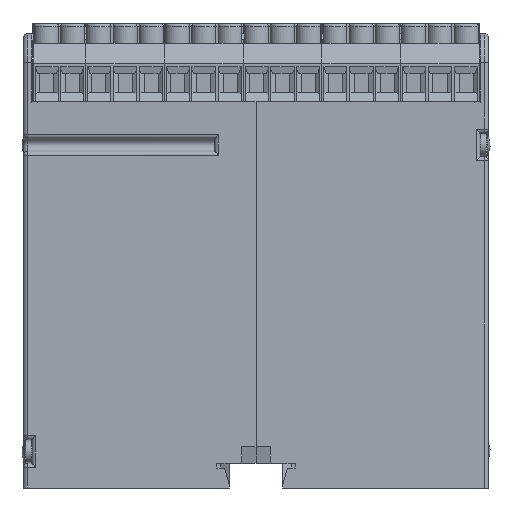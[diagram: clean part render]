
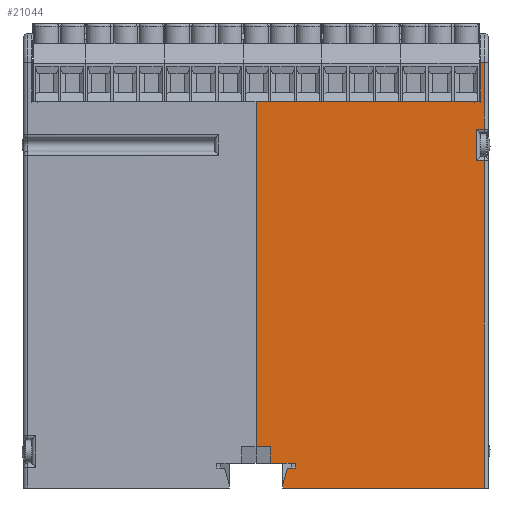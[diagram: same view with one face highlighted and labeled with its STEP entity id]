
A CAD part, front view. The second image highlights one B-rep face of the part: STEP entity #21044.
In plain terms, the highlighted planar face has unit normal (0, -1, 0).
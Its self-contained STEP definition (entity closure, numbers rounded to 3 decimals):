
#2092=FACE_OUTER_BOUND($,#3209,.T.);
#3209=EDGE_LOOP($,(#18521,#18522,#18523,#18524,#18525,#18526,#18527,#18528,
#18529,#18530,#18531,#18532,#18533,#18534,#18535,#18536,#18537,#18538));
#5376=LINE($,#36339,#7913);
#5430=LINE($,#36468,#7967);
#5512=LINE($,#36674,#8049);
#5527=LINE($,#36736,#8064);
#5530=LINE($,#36742,#8067);
#5533=LINE($,#36748,#8070);
#5535=LINE($,#36752,#8072);
#5536=LINE($,#36754,#8073);
#5537=LINE($,#36755,#8074);
#5538=LINE($,#36757,#8075);
#5539=LINE($,#36759,#8076);
#5540=LINE($,#36761,#8077);
#5541=LINE($,#36763,#8078);
#5542=LINE($,#36765,#8079);
#5543=LINE($,#36767,#8080);
#5544=LINE($,#36769,#8081);
#5545=LINE($,#36771,#8082);
#5546=LINE($,#36772,#8083);
#7913=VECTOR($,#26968,6.);
#7967=VECTOR($,#27064,1.2);
#8049=VECTOR($,#27198,52.75);
#8064=VECTOR($,#27261,4.167);
#8067=VECTOR($,#27266,0.775);
#8070=VECTOR($,#27271,1.922);
#8072=VECTOR($,#27275,83.6);
#8073=VECTOR($,#27276,3.5);
#8074=VECTOR($,#27277,4.);
#8075=VECTOR($,#27278,48.75);
#8076=VECTOR($,#27279,79.15);
#8077=VECTOR($,#27280,2.);
#8078=VECTOR($,#27281,7.7);
#8079=VECTOR($,#27282,2.);
#8080=VECTOR($,#27283,16.15);
#8081=VECTOR($,#27284,1.);
#8082=VECTOR($,#27285,9.4);
#8083=VECTOR($,#27286,1.5);
#10337=VERTEX_POINT($,#36336);
#10338=VERTEX_POINT($,#36338);
#10392=VERTEX_POINT($,#36466);
#10427=VERTEX_POINT($,#36537);
#10490=VERTEX_POINT($,#36672);
#10512=VERTEX_POINT($,#36732);
#10513=VERTEX_POINT($,#36734);
#10515=VERTEX_POINT($,#36740);
#10518=VERTEX_POINT($,#36751);
#10519=VERTEX_POINT($,#36753);
#10520=VERTEX_POINT($,#36756);
#10521=VERTEX_POINT($,#36758);
#10522=VERTEX_POINT($,#36760);
#10523=VERTEX_POINT($,#36762);
#10524=VERTEX_POINT($,#36764);
#10525=VERTEX_POINT($,#36766);
#10526=VERTEX_POINT($,#36768);
#10527=VERTEX_POINT($,#36770);
#13423=EDGE_CURVE($,#10338,#10337,#5376,.T.);
#13489=EDGE_CURVE($,#10337,#10392,#5430,.T.);
#13589=EDGE_CURVE($,#10490,#10427,#5512,.T.);
#13618=EDGE_CURVE($,#10512,#10513,#5527,.T.);
#13621=EDGE_CURVE($,#10513,#10515,#5530,.T.);
#13624=EDGE_CURVE($,#10392,#10512,#5533,.T.);
#13626=EDGE_CURVE($,#10518,#10490,#5535,.T.);
#13627=EDGE_CURVE($,#10519,#10518,#5536,.T.);
#13628=EDGE_CURVE($,#10338,#10519,#5537,.T.);
#13629=EDGE_CURVE($,#10515,#10520,#5538,.T.);
#13630=EDGE_CURVE($,#10520,#10521,#5539,.T.);
#13631=EDGE_CURVE($,#10522,#10521,#5540,.T.);
#13632=EDGE_CURVE($,#10522,#10523,#5541,.T.);
#13633=EDGE_CURVE($,#10523,#10524,#5542,.T.);
#13634=EDGE_CURVE($,#10524,#10525,#5543,.T.);
#13635=EDGE_CURVE($,#10526,#10525,#5544,.T.);
#13636=EDGE_CURVE($,#10527,#10526,#5545,.T.);
#13637=EDGE_CURVE($,#10427,#10527,#5546,.T.);
#18521=ORIENTED_EDGE($,*,*,#13626,.F.);
#18522=ORIENTED_EDGE($,*,*,#13627,.F.);
#18523=ORIENTED_EDGE($,*,*,#13628,.F.);
#18524=ORIENTED_EDGE($,*,*,#13423,.T.);
#18525=ORIENTED_EDGE($,*,*,#13489,.T.);
#18526=ORIENTED_EDGE($,*,*,#13624,.T.);
#18527=ORIENTED_EDGE($,*,*,#13618,.T.);
#18528=ORIENTED_EDGE($,*,*,#13621,.T.);
#18529=ORIENTED_EDGE($,*,*,#13629,.T.);
#18530=ORIENTED_EDGE($,*,*,#13630,.T.);
#18531=ORIENTED_EDGE($,*,*,#13631,.F.);
#18532=ORIENTED_EDGE($,*,*,#13632,.T.);
#18533=ORIENTED_EDGE($,*,*,#13633,.T.);
#18534=ORIENTED_EDGE($,*,*,#13634,.T.);
#18535=ORIENTED_EDGE($,*,*,#13635,.F.);
#18536=ORIENTED_EDGE($,*,*,#13636,.F.);
#18537=ORIENTED_EDGE($,*,*,#13637,.F.);
#18538=ORIENTED_EDGE($,*,*,#13589,.F.);
#20143=PLANE($,#22492);
#21044=ADVANCED_FACE($,(#2092),#20143,.F.);
#22492=AXIS2_PLACEMENT_3D($,#36750,#27273,#27274);
#26968=DIRECTION($,(1.,0.,0.));
#27064=DIRECTION($,(0.,0.,-1.));
#27198=DIRECTION($,(1.,0.,0.));
#27261=DIRECTION($,(-0.259,0.,-0.966));
#27266=DIRECTION($,(0.,0.,-1.));
#27271=DIRECTION($,(-1.,0.,0.));
#27273=DIRECTION('center_axis',(0.,1.,0.));
#27274=DIRECTION('ref_axis',(-1.,0.,0.));
#27275=DIRECTION($,(0.,0.,1.));
#27276=DIRECTION($,(-1.,0.,0.));
#27277=DIRECTION($,(0.,0.,1.));
#27278=DIRECTION($,(1.,0.,0.));
#27279=DIRECTION($,(0.,0.,1.));
#27280=DIRECTION($,(1.,0.,0.));
#27281=DIRECTION($,(0.,0.,1.));
#27282=DIRECTION($,(1.,0.,0.));
#27283=DIRECTION($,(0.,0.,1.));
#27284=DIRECTION($,(1.,0.,0.));
#27285=DIRECTION($,(0.,0.,1.));
#27286=DIRECTION($,(1.,0.,0.));
#36336=CARTESIAN_POINT('',(9.5,-37.,1.5));
#36338=CARTESIAN_POINT('',(3.5,-37.,1.5));
#36339=CARTESIAN_POINT($,(0.,-37.,1.5));
#36466=CARTESIAN_POINT('',(9.5,-37.,0.3));
#36468=CARTESIAN_POINT($,(9.5,-37.,1.5));
#36537=CARTESIAN_POINT('',(52.75,-37.,89.1));
#36672=CARTESIAN_POINT('',(0.,-37.,89.1));
#36674=CARTESIAN_POINT($,(0.,-37.,89.1));
#36732=CARTESIAN_POINT('',(7.578,-37.,0.3));
#36734=CARTESIAN_POINT('',(6.5,-37.,-3.725));
#36736=CARTESIAN_POINT($,(6.5,-37.,-3.725));
#36740=CARTESIAN_POINT('',(6.5,-37.,-4.5));
#36742=CARTESIAN_POINT($,(6.5,-37.,-3.725));
#36748=CARTESIAN_POINT($,(0.,-37.,0.3));
#36750=CARTESIAN_POINT('Origin',(54.25,-37.,-4.5));
#36751=CARTESIAN_POINT('',(0.,-37.,5.5));
#36752=CARTESIAN_POINT($,(0.,-37.,-4.5));
#36753=CARTESIAN_POINT('',(3.5,-37.,5.5));
#36754=CARTESIAN_POINT($,(3.5,-37.,5.5));
#36755=CARTESIAN_POINT($,(3.5,-37.,1.5));
#36756=CARTESIAN_POINT('',(55.25,-37.,-4.5));
#36757=CARTESIAN_POINT($,(54.25,-37.,-4.5));
#36758=CARTESIAN_POINT('',(55.25,-37.,74.65));
#36759=CARTESIAN_POINT($,(55.25,-37.,-4.5));
#36760=CARTESIAN_POINT('',(53.25,-37.,74.65));
#36761=CARTESIAN_POINT($,(54.25,-37.,74.65));
#36762=CARTESIAN_POINT('',(53.25,-37.,82.35));
#36763=CARTESIAN_POINT($,(53.25,-37.,82.35));
#36764=CARTESIAN_POINT('',(55.25,-37.,82.35));
#36765=CARTESIAN_POINT($,(54.25,-37.,82.35));
#36766=CARTESIAN_POINT('',(55.25,-37.,98.5));
#36767=CARTESIAN_POINT($,(55.25,-37.,-4.5));
#36768=CARTESIAN_POINT('',(54.25,-37.,98.5));
#36769=CARTESIAN_POINT($,(54.25,-37.,98.5));
#36770=CARTESIAN_POINT('',(54.25,-37.,89.1));
#36771=CARTESIAN_POINT($,(54.25,-37.,-4.5));
#36772=CARTESIAN_POINT($,(0.,-37.,89.1));
